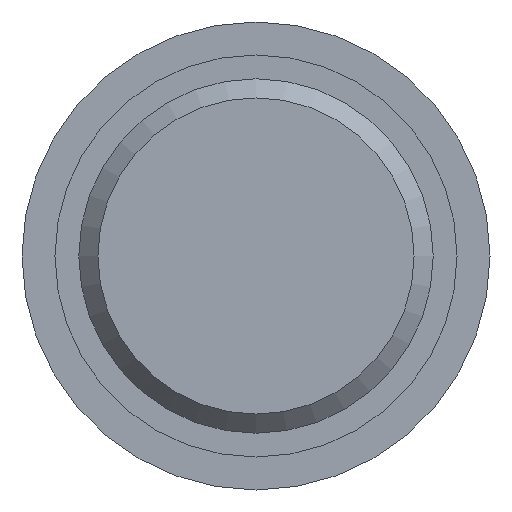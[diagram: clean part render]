
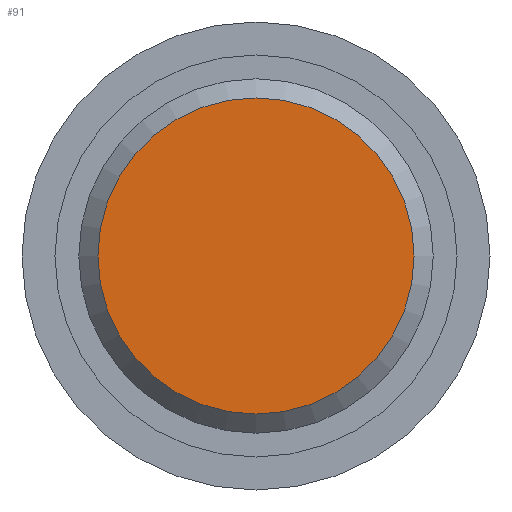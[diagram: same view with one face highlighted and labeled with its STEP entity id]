
A CAD part, front view. The second image highlights one B-rep face of the part: STEP entity #91.
In plain terms, the highlighted planar face has unit normal (0, -1, 0).
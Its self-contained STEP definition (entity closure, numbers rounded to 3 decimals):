
#91 = ADVANCED_FACE( '', ( #138 ), #139, .F. );
#138 = FACE_OUTER_BOUND( '', #193, .T. );
#139 = PLANE( '', #194 );
#193 = EDGE_LOOP( '', ( #308 ) );
#194 = AXIS2_PLACEMENT_3D( '', #309, #310, #311 );
#308 = ORIENTED_EDGE( '', *, *, #359, .T. );
#309 = CARTESIAN_POINT( '', ( 7.431, 0., 0. ) );
#310 = DIRECTION( '', ( 0., 1., 0. ) );
#311 = DIRECTION( '', ( 0., 0., 1. ) );
#359 = EDGE_CURVE( '', #411, #411, #412, .T. );
#411 = VERTEX_POINT( '', #485 );
#412 = CIRCLE( '', #486, 7.431 );
#485 = CARTESIAN_POINT( '', ( 0., 0., -7.431 ) );
#486 = AXIS2_PLACEMENT_3D( '', #538, #539, #540 );
#538 = CARTESIAN_POINT( '', ( 0., 0., 0. ) );
#539 = DIRECTION( '', ( 0., -1., 0. ) );
#540 = DIRECTION( '', ( 0., 0., -1. ) );
